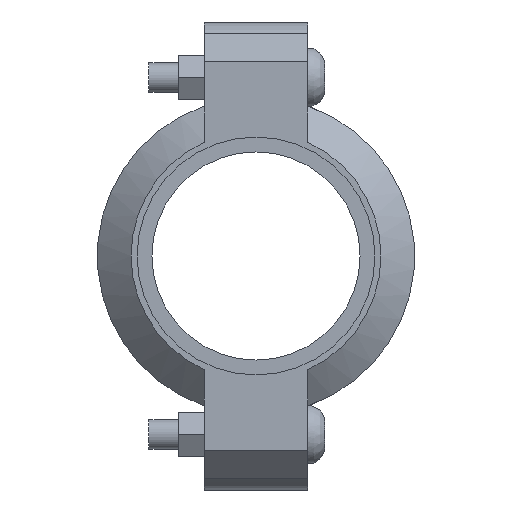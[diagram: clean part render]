
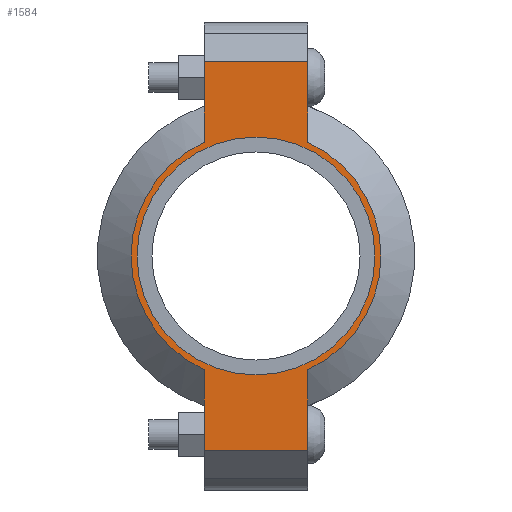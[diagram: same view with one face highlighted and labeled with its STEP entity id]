
A CAD part, left-side view. The second image highlights one B-rep face of the part: STEP entity #1584.
In plain terms, the highlighted planar face has unit normal (-1, 0, 0) as drawn and (0, 0, 1) by its records, which use the part's own axes.
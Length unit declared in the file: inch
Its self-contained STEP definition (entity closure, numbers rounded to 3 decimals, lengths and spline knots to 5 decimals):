
#190=LINE('',#2779,#285);
#203=LINE('',#2823,#298);
#208=LINE('',#2847,#303);
#215=LINE('',#2865,#310);
#222=LINE('',#2890,#317);
#223=LINE('',#2893,#318);
#285=VECTOR('',#2237,0.3937);
#298=VECTOR('',#2266,0.3937);
#303=VECTOR('',#2277,0.3937);
#310=VECTOR('',#2294,0.3937);
#317=VECTOR('',#2315,0.3937);
#318=VECTOR('',#2320,0.3937);
#370=FACE_BOUND('',#548,.T.);
#443=FACE_OUTER_BOUND('',#547,.T.);
#547=EDGE_LOOP('',(#1339,#1340,#1341,#1342,#1343,#1344,#1345,#1346));
#548=EDGE_LOOP('',(#1347));
#617=CIRCLE('',#1801,1.5);
#645=CIRCLE('',#1864,1.575);
#646=CIRCLE('',#1865,1.575);
#709=VERTEX_POINT('',#2567);
#752=VERTEX_POINT('',#2774);
#753=VERTEX_POINT('',#2778);
#769=VERTEX_POINT('',#2820);
#770=VERTEX_POINT('',#2822);
#776=VERTEX_POINT('',#2842);
#777=VERTEX_POINT('',#2846);
#782=VERTEX_POINT('',#2862);
#783=VERTEX_POINT('',#2864);
#867=EDGE_CURVE('',#709,#709,#617,.T.);
#929=EDGE_CURVE('',#753,#752,#190,.T.);
#949=EDGE_CURVE('',#770,#769,#203,.T.);
#958=EDGE_CURVE('',#777,#776,#208,.T.);
#967=EDGE_CURVE('',#783,#782,#215,.T.);
#979=EDGE_CURVE('',#777,#769,#222,.T.);
#980=EDGE_CURVE('',#776,#783,#645,.T.);
#981=EDGE_CURVE('',#753,#782,#223,.T.);
#982=EDGE_CURVE('',#752,#770,#646,.T.);
#1339=ORIENTED_EDGE('',*,*,#979,.F.);
#1340=ORIENTED_EDGE('',*,*,#958,.T.);
#1341=ORIENTED_EDGE('',*,*,#980,.T.);
#1342=ORIENTED_EDGE('',*,*,#967,.T.);
#1343=ORIENTED_EDGE('',*,*,#981,.F.);
#1344=ORIENTED_EDGE('',*,*,#929,.T.);
#1345=ORIENTED_EDGE('',*,*,#982,.T.);
#1346=ORIENTED_EDGE('',*,*,#949,.T.);
#1347=ORIENTED_EDGE('',*,*,#867,.T.);
#1425=PLANE('',#1863);
#1584=ADVANCED_FACE('',(#443,#370),#1425,.T.);
#1801=AXIS2_PLACEMENT_3D('',#2569,#2117,#2118);
#1863=AXIS2_PLACEMENT_3D('',#2891,#2316,#2317);
#1864=AXIS2_PLACEMENT_3D('',#2892,#2318,#2319);
#1865=AXIS2_PLACEMENT_3D('',#2894,#2321,#2322);
#2117=DIRECTION('center_axis',(0.,0.,-1.));
#2118=DIRECTION('ref_axis',(-1.,0.,0.));
#2237=DIRECTION('',(-1.,0.,0.));
#2266=DIRECTION('',(-1.,0.,0.));
#2277=DIRECTION('',(1.,0.,0.));
#2294=DIRECTION('',(1.,0.,0.));
#2315=DIRECTION('',(0.,1.,0.));
#2316=DIRECTION('center_axis',(0.,0.,1.));
#2317=DIRECTION('ref_axis',(1.,0.,0.));
#2318=DIRECTION('center_axis',(0.,0.,1.));
#2319=DIRECTION('ref_axis',(-1.,0.,0.));
#2320=DIRECTION('',(0.,-1.,0.));
#2321=DIRECTION('center_axis',(0.,0.,1.));
#2322=DIRECTION('ref_axis',(-1.,0.,0.));
#2567=CARTESIAN_POINT('',(1.5,0.,0.94));
#2569=CARTESIAN_POINT('Origin',(0.,0.,0.94));
#2774=CARTESIAN_POINT('',(1.43462,0.65,0.94));
#2778=CARTESIAN_POINT('',(2.45,0.65,0.94));
#2779=CARTESIAN_POINT('',(-2.95,0.65,0.94));
#2820=CARTESIAN_POINT('',(-2.45,0.65,0.94));
#2822=CARTESIAN_POINT('',(-1.43462,0.65,0.94));
#2823=CARTESIAN_POINT('',(-2.95,0.65,0.94));
#2842=CARTESIAN_POINT('',(-1.43462,-0.65,0.94));
#2846=CARTESIAN_POINT('',(-2.45,-0.65,0.94));
#2847=CARTESIAN_POINT('',(2.95,-0.65,0.94));
#2862=CARTESIAN_POINT('',(2.45,-0.65,0.94));
#2864=CARTESIAN_POINT('',(1.43462,-0.65,0.94));
#2865=CARTESIAN_POINT('',(2.95,-0.65,0.94));
#2890=CARTESIAN_POINT('',(-2.45,0.325,0.94));
#2891=CARTESIAN_POINT('Origin',(0.,0.,
0.94));
#2892=CARTESIAN_POINT('Origin',(0.,0.,0.94));
#2893=CARTESIAN_POINT('',(2.45,-0.325,0.94));
#2894=CARTESIAN_POINT('Origin',(0.,0.,0.94));
